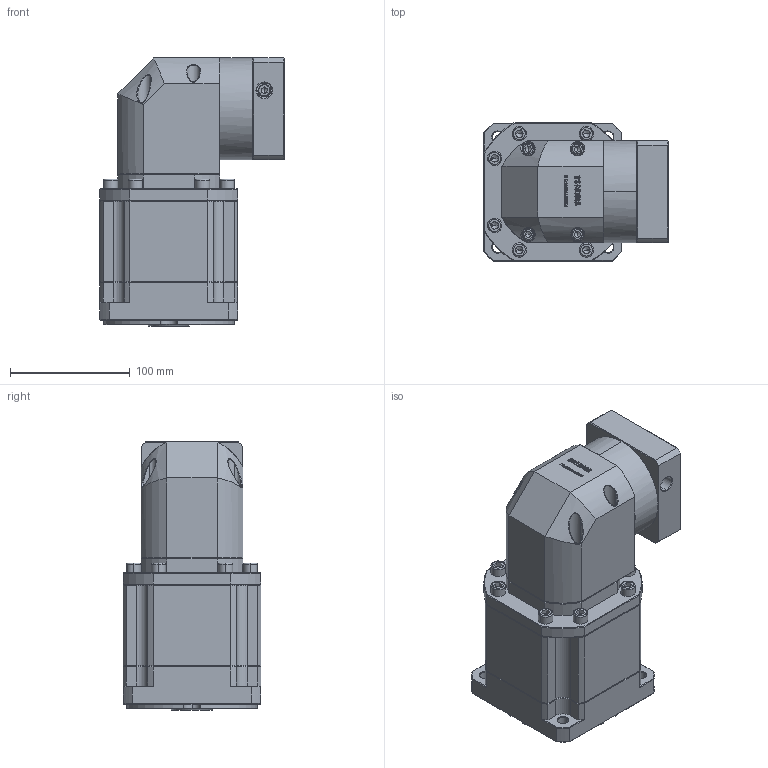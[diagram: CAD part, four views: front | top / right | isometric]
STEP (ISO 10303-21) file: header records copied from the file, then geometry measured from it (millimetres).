
FILE_DESCRIPTION (( 'STEP AP214' ), '1' );
FILE_NAME ('ZBR115A-K25-L3-19-80-100-M6.step', '2023-03-02T14:41:00', ( '' ), ( 'Microsoft' ), 'SwSTEP 2.0', 'SolidWorks 2016', '' );
FILE_SCHEMA (( 'AUTOMOTIVE_DESIGN' ));
Length unit declared in the file: millimetre
Products named in the file (1): ZBR115A-K25-L3-19-80-100-M6
Bounding box: 153.6 x 115 x 223.5 mm (x, y, z)
Volume: 2224415.3 mm3; surface area: 187698 mm2
Topology: 6 solids, 6 shells, 3148 faces, 8266 edges, 5271 vertices
Faces by surface type: plane 1692, bspline 624, cylinder 446, cone 372, torus 14
Entity records: 165640 total; most frequent: CARTESIAN_POINT 58301, ORIENTED_EDGE 16428, DIRECTION 12709, EDGE_CURVE 8214, VECTOR 5541, LINE 5541, VERTEX_POINT 5271, AXIS2_PLACEMENT_3D 3584
